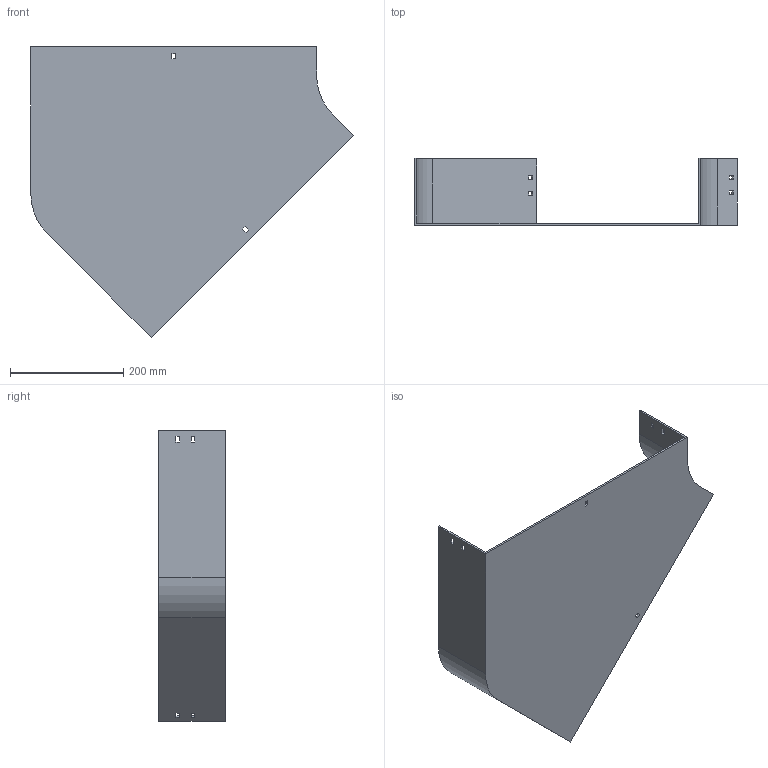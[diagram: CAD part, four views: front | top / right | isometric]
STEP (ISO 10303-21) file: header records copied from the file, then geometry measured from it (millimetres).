
FILE_DESCRIPTION (( 'STEP AP214' ), '1' );
FILE_NAME ('11B1J500.step', '2025-02-21T09:37:16', ( '' ), ( '' ), 'SwSTEP 2.0', 'SolidWorks 2023', '' );
FILE_SCHEMA (( 'AUTOMOTIVE_DESIGN' ));
Length unit declared in the file: millimetre
Products named in the file (1): 11B1J500
Bounding box: 568.64 x 117.5 x 512.45 mm (x, y, z)
Volume: 997492.3 mm3; surface area: 578999.7 mm2
Topology: 1 solids, 1 shells, 58 faces, 168 edges, 112 vertices
Faces by surface type: plane 54, cylinder 4
Entity records: 1943 total; most frequent: CARTESIAN_POINT 339, ORIENTED_EDGE 336, DIRECTION 294, EDGE_CURVE 168, VECTOR 160, LINE 160, VERTEX_POINT 112, EDGE_LOOP 78
